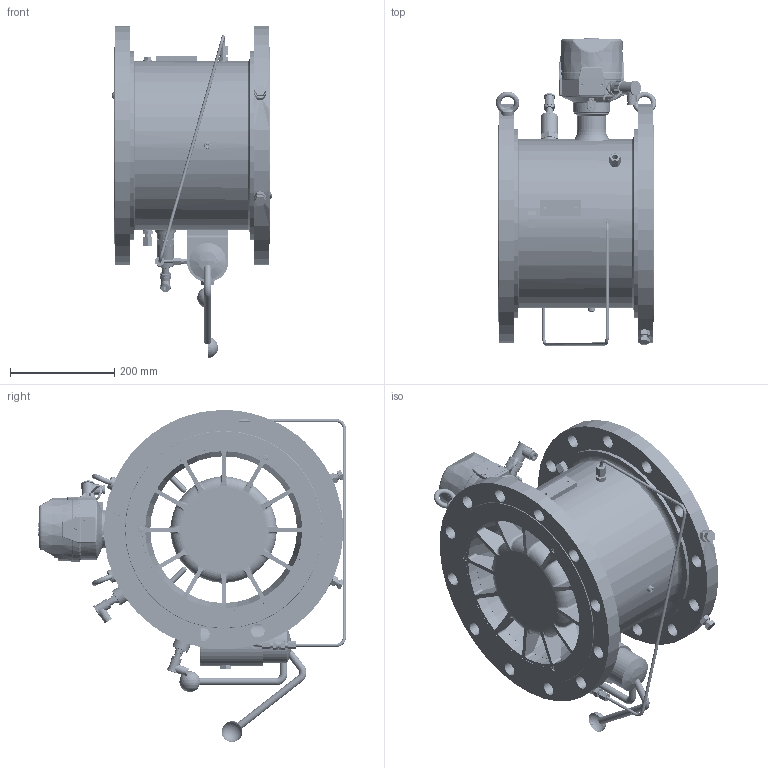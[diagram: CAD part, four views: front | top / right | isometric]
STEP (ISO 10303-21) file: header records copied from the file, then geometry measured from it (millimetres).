
FILE_DESCRIPTION((''),'2;1');
FILE_NAME('063826_1_R_ASM','2026-07-14T21:30:49',('R17543'),(''),'CREO PARAMETRIC BY PTC INC, 2024273','CREO PARAMETRIC BY PTC INC, 2024273','');
FILE_SCHEMA(('CONFIG_CONTROL_DESIGN','SHAPE_APPEARANCE_LAYERS_GROUPS'));
Products named in the file (91): 063688_1_ROHR_ROH_AF0; 063688_1_FLANSCH_ROH_AF1; 063688_1_FLANSCH_ROH_AF0; 063688_1_STUTZENNAHT_ZAHLWERK_AF0; 062903_4_V01_AF0; 063688_1_RUNDNAHT_1_AF0; 063688_1_RUNDNAHT_2_AF0; 063674_4_AF0; 063674_4_AF1; 055154_4; 933M12X35; 934M12; 063688_1_STUTZENNAHT_HF3_2_AF2; 063688_1_STUTZENNAHT_HF3_3; 063688_1_FERTIG_ASM; 062953_4; 1M6X20; O-RING_52X2_5; GEHAEUSE_TRZ03_ZWF_PED-2012; 054578_2; 965M3X6; STECKER_WINKEL_ZWF_PED-2012; STECKVERBINDER_ZWF_PED-2012; AM3X10_DIN404_ZWF_PED-2012; 84M3X8; STECKER_FA_BINDER_ZWF_PED-2012_ASM; LASCHE_ZWF_PED-2012; KERBNAGEL_ZWF_PED-2012; PLEXIGLASSCHEIBE_ZWF_PED-2012; SCHILD_SCHRAEG_ZWF_PED-2012; 551M6X10; 055027_4I; RADIALKUGELLAGER_3X7X3; 055027_4C; 055027_4F; KNEBELKERBSTIFT_2_L30; 055027_4A; 055027_4D; 055027_4B; 055027_4E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
Assembly tree (124 placements, depth 5):
  063826_1_R_ASM
    063688_1_FERTIG_ASM
      063688_1_ROHR_ROH_AF0
      063688_1_FLANSCH_ROH_AF1
      063688_1_FLANSCH_ROH_AF0
      063688_1_STUTZENNAHT_ZAHLWERK_AF0
      062903_4_V01_AF0
      063688_1_RUNDNAHT_1_AF0
      063688_1_RUNDNAHT_2_AF0
      063674_4_AF0
      063674_4_AF1
      055154_4  x2
      933M12X35  x2
      934M12  x2
      063688_1_STUTZENNAHT_HF3_2_AF2
      063688_1_STUTZENNAHT_HF3_3
    BAUGRUPPE_ZWF_PED-2012_VEREINF_ASM
      062953_4
      1M6X20  x6
      O-RING_52X2_5
      GEHAEUSE_TRZ03_ZWF_PED-2012
      054578_2
      965M3X6  x2
      STECKER_FA_BINDER_ZWF_PED-2012_ASM
        STECKER_WINKEL_ZWF_PED-2012
        STECKVERBINDER_ZWF_PED-2012
        AM3X10_DIN404_ZWF_PED-2012
        84M3X8
      LASCHE_ZWF_PED-2012
      KERBNAGEL_ZWF_PED-2012  x5
      PLEXIGLASSCHEIBE_ZWF_PED-2012
      SCHILD_SCHRAEG_ZWF_PED-2012
      551M6X10  x3
      063240_4_ASM
        055027_4I
        RADIALKUGELLAGER_3X7X3  x4
        055027_4C
        055027_4F
        KNEBELKERBSTIFT_2_L30  x2
        055027_4A
        055027_4D
        055027_4B
        055027_4E
        051409_4
        055027_4G
    DICHTRING_G1_4ZOLL  x5
    054365_4  x2
    063992_4_ASM
      VERSCHR_G1_4_ERMETO_GE06SRCF
      063635_4_DN200-DN250
    VERSCHR_G1_4_ERMETO_GE06SRCF
    PR_KUGEL_TRZ
    HEBELPUMPE_RECHTS_ASM
      HANDHEBELPUMPE_HEBEL
      HANDHEBELPUMPE_BEFESTIGUNGSRING
      HANDHEBELPUMPE_DECKEL
      HANDHEBELPUMPE_VERSCHRAUBUNG
      HANDPUMPEHEBEL_F_PUMPE
    1256_4  x2
    933M6X12  x2
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Bounding box: 307.97 x 591 x 637.84 mm (x, y, z)
Volume: 11544409.2 mm3; surface area: 2150581.5 mm2
Topology: 127 solids, 171 shells, 4089 faces, 9887 edges, 6137 vertices
Faces by surface type: plane 1521, cylinder 1403, cone 457, torus 345, bspline 207, extrusion 106, sphere 50
Entity records: 105879 total; most frequent: CARTESIAN_POINT 30369, DIRECTION 14987, ORIENTED_EDGE 13976, EDGE_CURVE 7047, AXIS2_PLACEMENT_3D 5918, VERTEX_POINT 4486, EDGE_LOOP 3375, VECTOR 3151
